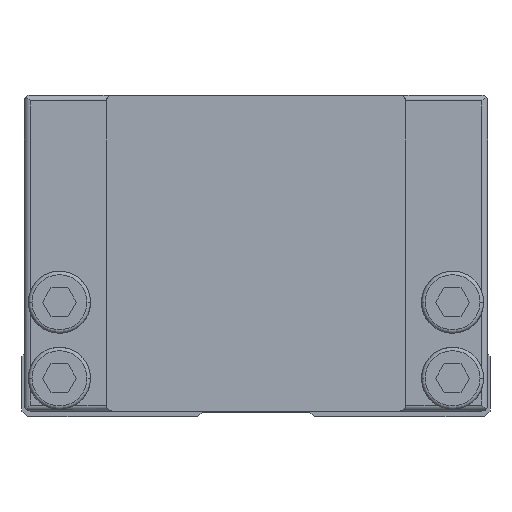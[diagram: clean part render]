
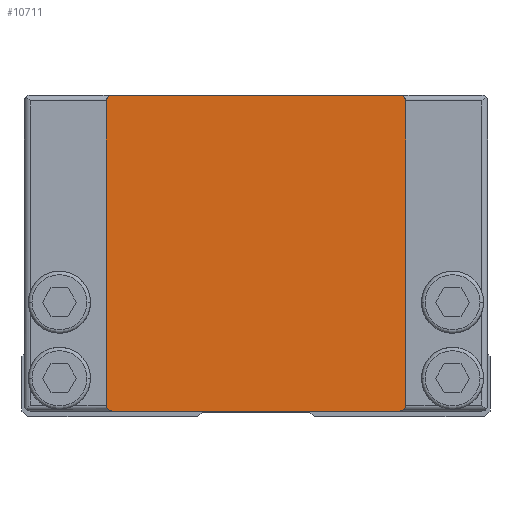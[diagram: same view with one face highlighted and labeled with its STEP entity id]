
A CAD part, front view. The second image highlights one B-rep face of the part: STEP entity #10711.
In plain terms, the highlighted planar face has unit normal (0, -1, 0).
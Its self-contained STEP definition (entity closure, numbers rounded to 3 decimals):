
#7327=VERTEX_POINT('',#18660);
#7433=EDGE_CURVE('',#10629,#15285,#18775,.T.);
#8029=EDGE_CURVE('',#8825,#12317,#19432,.T.);
#8825=VERTEX_POINT('',#20328);
#9075=VERTEX_POINT('',#20598);
#10321=EDGE_CURVE('',#12317,#7327,#21981,.T.);
#10629=VERTEX_POINT('',#22321);
#10711=ADVANCED_FACE('',(#22410),#22411,.T.);
#11051=VERTEX_POINT('',#22786);
#12317=VERTEX_POINT('',#24183);
#12541=EDGE_CURVE('',#7327,#9075,#24431,.T.);
#13489=EDGE_CURVE('',#15285,#8825,#25499,.T.);
#15285=VERTEX_POINT('',#27470);
#15349=EDGE_CURVE('',#15845,#11051,#27540,.T.);
#15567=EDGE_CURVE('',#11051,#10629,#27773,.T.);
#15845=VERTEX_POINT('',#28085);
#15867=EDGE_CURVE('',#9075,#15845,#28107,.T.);
#18660=CARTESIAN_POINT('',(-12.8,0.0,1.0));
#18775=LINE('',#32146,#32147);
#19432=LINE('',#33068,#33069);
#20328=CARTESIAN_POINT('',(12.3,0.0,0.5));
#20598=CARTESIAN_POINT('',(-12.8,0.0,27.0));
#21981=CIRCLE('',#36795,0.5);
#22321=CARTESIAN_POINT('',(12.8,0.0,27.0));
#22410=FACE_OUTER_BOUND('',#37396,.T.);
#22411=PLANE('',#37397);
#22786=CARTESIAN_POINT('',(12.3,0.0,27.5));
#24183=CARTESIAN_POINT('',(-12.3,0.0,0.5));
#24431=LINE('',#40260,#40261);
#25499=CIRCLE('',#41811,0.5);
#27470=CARTESIAN_POINT('',(12.8,0.0,1.0));
#27540=LINE('',#44883,#44884);
#27773=CIRCLE('',#45268,0.5);
#28085=CARTESIAN_POINT('',(-12.3,0.0,27.5));
#28107=CIRCLE('',#45724,0.5);
#32146=CARTESIAN_POINT('',(12.8,0.0,1.0));
#32147=VECTOR('',#49365,1.0);
#33068=CARTESIAN_POINT('',(-12.3,0.0,0.5));
#33069=VECTOR('',#50122,1.0);
#36795=AXIS2_PLACEMENT_3D('',#53042,#53043,#53044);
#37396=EDGE_LOOP('',(#53517,#53518,#53519,#53520,#53521,#53522,#53523,#53524));
#37397=AXIS2_PLACEMENT_3D('',#53525,#53526,#53527);
#40260=CARTESIAN_POINT('',(-12.8,0.0,27.0));
#40261=VECTOR('',#55862,1.0);
#41811=AXIS2_PLACEMENT_3D('',#57245,#57246,#57247);
#44883=CARTESIAN_POINT('',(12.3,0.0,27.5));
#44884=VECTOR('',#59506,1.0);
#45268=AXIS2_PLACEMENT_3D('',#59719,#59720,#59721);
#45724=AXIS2_PLACEMENT_3D('',#60131,#60132,#60133);
#49365=DIRECTION('',(-0.0,0.0,-1.0));
#50122=DIRECTION('',(-1.0,0.0,-0.0));
#53042=CARTESIAN_POINT('',(-12.3,0.0,1.));
#53043=DIRECTION('',(0.0,1.0,-0.0));
#53044=DIRECTION('',(-1.0,0.0,0.));
#53517=ORIENTED_EDGE('',*,*,#12541,.F.);
#53518=ORIENTED_EDGE('',*,*,#10321,.F.);
#53519=ORIENTED_EDGE('',*,*,#8029,.F.);
#53520=ORIENTED_EDGE('',*,*,#13489,.F.);
#53521=ORIENTED_EDGE('',*,*,#7433,.F.);
#53522=ORIENTED_EDGE('',*,*,#15567,.F.);
#53523=ORIENTED_EDGE('',*,*,#15349,.F.);
#53524=ORIENTED_EDGE('',*,*,#15867,.F.);
#53525=CARTESIAN_POINT('',(0.,0.0,14.0));
#53526=DIRECTION('',(0.0,-1.0,0.0));
#53527=DIRECTION('',(1.0,0.0,0.0));
#55862=DIRECTION('',(0.0,0.0,1.0));
#57245=CARTESIAN_POINT('',(12.3,0.0,1.));
#57246=DIRECTION('',(-0.0,1.0,0.0));
#57247=DIRECTION('',(0.0,0.0,-1.0));
#59506=DIRECTION('',(1.0,0.0,0.0));
#59719=CARTESIAN_POINT('',(12.3,0.0,27.0));
#59720=DIRECTION('',(-0.0,1.0,0.0));
#59721=DIRECTION('',(1.0,0.0,0.));
#60131=CARTESIAN_POINT('',(-12.3,0.0,27.0));
#60132=DIRECTION('',(0.0,1.0,-0.0));
#60133=DIRECTION('',(0.,0.0,1.0));
